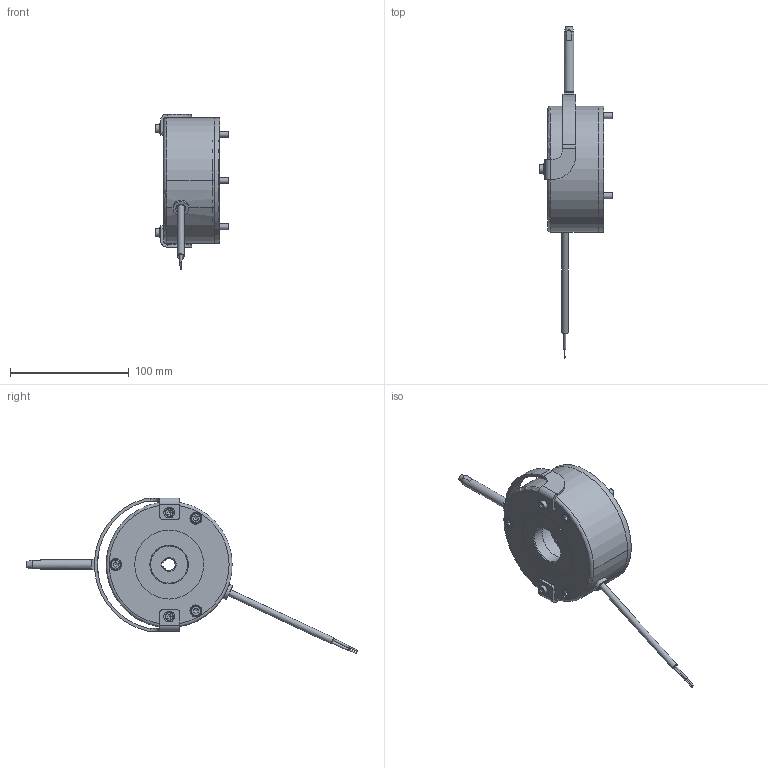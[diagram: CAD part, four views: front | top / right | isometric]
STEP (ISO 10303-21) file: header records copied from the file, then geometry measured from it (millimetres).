
FILE_DESCRIPTION(/* description */ (''),/* implementation_level */ '2;1');
FILE_NAME(/* name */ 'C:\SapWorkDir\Inventor\IP1\ConvertTempPath\5028614_IPT_000.ipt.stp',/* time_stamp */ '2020-09-10T14:01:32+02:00',/* author */ ('STRATE'),/* organization */ (''),/* preprocessor_version */ 'ST-DEVELOPER v17',/* originating_system */ 'Autodesk Inventor 2018',/* authorisation */ '');
FILE_SCHEMA (('AUTOMOTIVE_DESIGN { 1 0 10303 214 3 1 1 }'));
Length unit declared in the file: millimetre
Products named in the file (1): 5028614
Bounding box: 62.3 x 279.42 x 131.24 mm (x, y, z)
Volume: 252408.9 mm3; surface area: 106491.1 mm2
Topology: 5 solids, 5 shells, 588 faces, 1624 edges, 1107 vertices
Faces by surface type: cylinder 346, plane 145, cone 60, torus 32, bspline 5
Full cylindrical faces by diameter (mm): 1 x2, 1.85 x2, 2.2 x14, 3.242 x2, 4 x2, 4.134 x1, 4.3 x2, 4.7 x2, 5 x5, 5.2 x3, 5.3 x1, 5.4 x14, 5.5 x7, 5.9 x2, 6 x2, 6.2 x14, 6.6 x1, 6.7 x1, 6.8 x2, 7 x2, 8 x1, 8.5 x3, 8.9 x3, 9 x2, 9.2 x1, 10 x3, 13.2 x1, 32 x1, 41.5 x1, 42 x1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
Entity records: 20969 total; most frequent: CARTESIAN_POINT 4977, DIRECTION 3272, ORIENTED_EDGE 3210, EDGE_CURVE 1605, AXIS2_PLACEMENT_3D 1354, VERTEX_POINT 1107, CIRCLE 770, EDGE_LOOP 696
